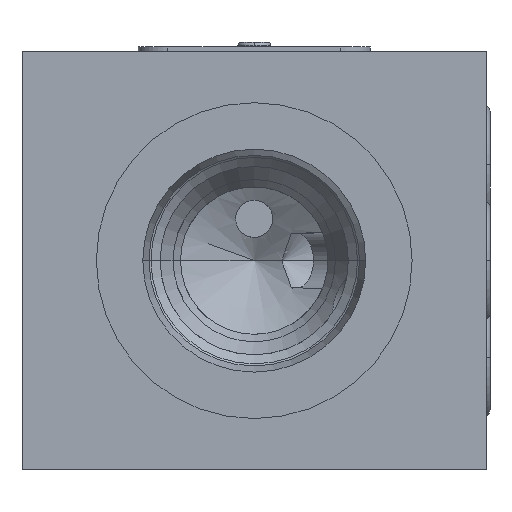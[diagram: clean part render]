
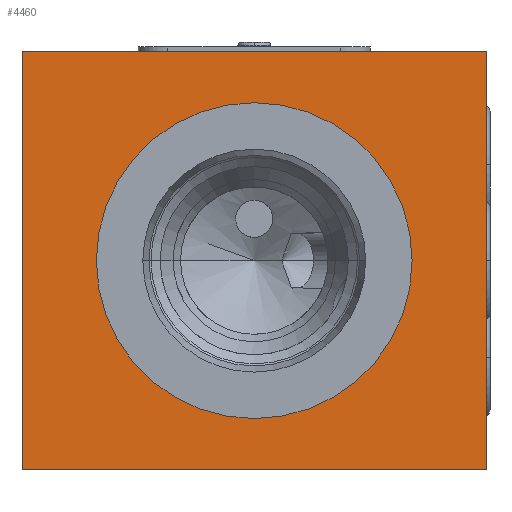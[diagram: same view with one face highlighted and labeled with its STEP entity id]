
A CAD part, left-side view. The second image highlights one B-rep face of the part: STEP entity #4460.
In plain terms, the highlighted planar face has unit normal (-1, 0, 0).
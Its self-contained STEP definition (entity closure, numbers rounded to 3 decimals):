
#55=DIRECTION('',(0.,0.,-1.));
#56=VECTOR('',#55,45.);
#57=CARTESIAN_POINT('',(0.,0.,0.));
#58=LINE('',#57,#56);
#62=DIRECTION('',(0.,1.,0.));
#63=VECTOR('',#62,50.);
#64=CARTESIAN_POINT('',(0.,0.,-45.));
#65=LINE('',#64,#63);
#69=DIRECTION('',(0.,0.,1.));
#70=VECTOR('',#69,45.);
#71=CARTESIAN_POINT('',(0.,50.,-45.));
#72=LINE('',#71,#70);
#76=DIRECTION('',(0.,-1.,0.));
#77=VECTOR('',#76,50.);
#78=CARTESIAN_POINT('',(0.,50.,0.));
#79=LINE('',#78,#77);
#83=CARTESIAN_POINT('',(0.,25.,-22.5));
#84=DIRECTION('',(1.,0.,0.));
#85=DIRECTION('',(0.,-1.,0.));
#86=AXIS2_PLACEMENT_3D('',#83,#84,#85);
#91=CARTESIAN_POINT('',(0.,25.,-22.5));
#92=DIRECTION('',(1.,0.,0.));
#93=DIRECTION('',(0.,1.,0.));
#94=AXIS2_PLACEMENT_3D('',#91,#92,#93);
#4100=CARTESIAN_POINT('',(0.,0.,0.));
#4101=CARTESIAN_POINT('',(0.,0.,-45.));
#4102=VERTEX_POINT('',#4100);
#4103=VERTEX_POINT('',#4101);
#4104=CARTESIAN_POINT('',(0.,50.,-45.));
#4105=VERTEX_POINT('',#4104);
#4106=CARTESIAN_POINT('',(0.,50.,0.));
#4107=VERTEX_POINT('',#4106);
#4220=CARTESIAN_POINT('',(0.,8.,-22.5));
#4221=VERTEX_POINT('',#4220);
#4222=CARTESIAN_POINT('',(0.,42.,-22.5));
#4223=VERTEX_POINT('',#4222);
#4439=CARTESIAN_POINT('',(0.,0.,0.));
#4440=DIRECTION('',(1.,0.,0.));
#4441=DIRECTION('',(0.,0.,-1.));
#4442=AXIS2_PLACEMENT_3D('',#4439,#4440,#4441);
#4443=PLANE('',#4442);
#4445=ORIENTED_EDGE('',*,*,#4444,.T.);
#4447=ORIENTED_EDGE('',*,*,#4446,.T.);
#4449=ORIENTED_EDGE('',*,*,#4448,.T.);
#4451=ORIENTED_EDGE('',*,*,#4450,.T.);
#4452=EDGE_LOOP('',(#4445,#4447,#4449,#4451));
#4453=FACE_OUTER_BOUND('',#4452,.F.);
#4455=ORIENTED_EDGE('',*,*,#4454,.F.);
#4457=ORIENTED_EDGE('',*,*,#4456,.F.);
#4458=EDGE_LOOP('',(#4455,#4457));
#4459=FACE_BOUND('',#4458,.F.);
#87=CIRCLE('',#86,17.);
#95=CIRCLE('',#94,17.);
#4444=EDGE_CURVE('',#4102,#4103,#58,.T.);
#4446=EDGE_CURVE('',#4103,#4105,#65,.T.);
#4448=EDGE_CURVE('',#4105,#4107,#72,.T.);
#4450=EDGE_CURVE('',#4107,#4102,#79,.T.);
#4454=EDGE_CURVE('',#4221,#4223,#87,.T.);
#4456=EDGE_CURVE('',#4223,#4221,#95,.T.);
#4460=ADVANCED_FACE('',(#4453,#4459),#4443,.F.);
